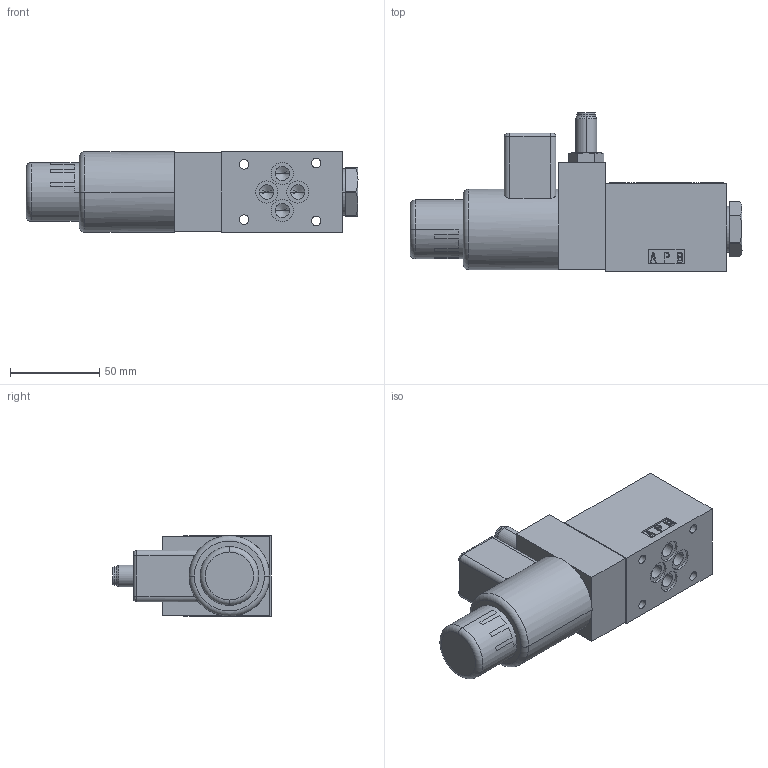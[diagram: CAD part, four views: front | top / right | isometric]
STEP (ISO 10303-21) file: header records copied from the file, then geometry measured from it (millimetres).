
FILE_DESCRIPTION((''),'2;1');
FILE_NAME('RPE3_062_SA','2011-03-14T',('tvatras'),(''),'PRO/ENGINEER BY PARAMETRIC TECHNOLOGY CORPORATION, 2010180','PRO/ENGINEER BY PARAMETRIC TECHNOLOGY CORPORATION, 2010180','');
FILE_SCHEMA(('CONFIG_CONTROL_DESIGN'));
Length unit declared in the file: millimetre
Products named in the file (1): RPE3_062_SA
Bounding box: 186.5 x 89 x 45.3 mm (x, y, z)
Volume: 358088.1 mm3; surface area: 45958.7 mm2
Topology: 1 solids, 3 shells, 437 faces, 1181 edges, 779 vertices
Faces by surface type: plane 310, cylinder 85, cone 30, torus 4, bspline 4, sphere 4
Entity records: 13810 total; most frequent: CARTESIAN_POINT 2679, ORIENTED_EDGE 2328, DIRECTION 2231, EDGE_CURVE 1166, VECTOR 881, LINE 881, VERTEX_POINT 777, AXIS2_PLACEMENT_3D 675
